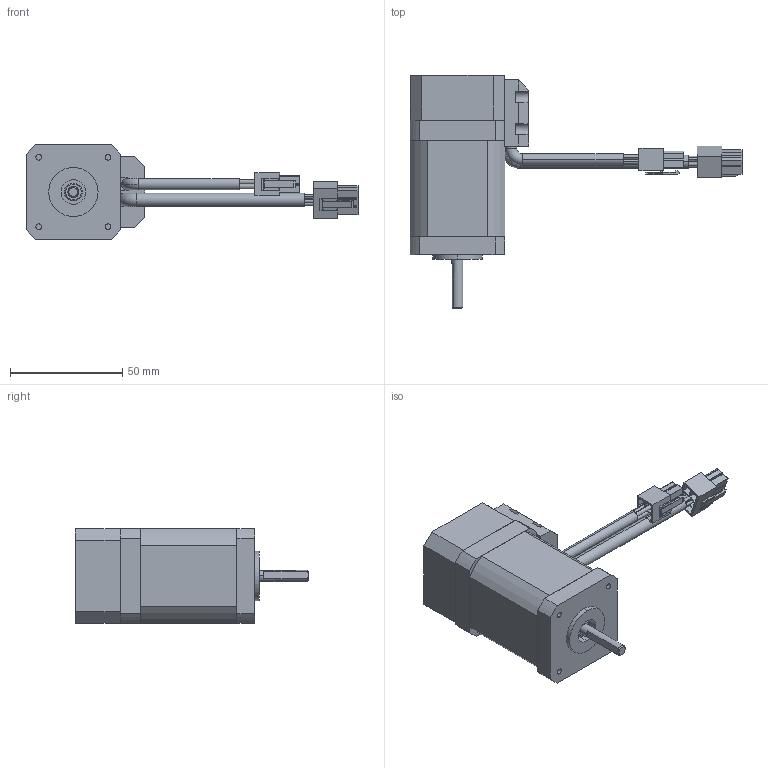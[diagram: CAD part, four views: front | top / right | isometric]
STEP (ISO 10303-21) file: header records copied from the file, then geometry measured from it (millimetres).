
FILE_DESCRIPTION (( 'STEP AP203' ), '1' );
FILE_NAME ('42HS280-020.STEP', '2020-07-08T08:12:59', ( 'Windows' ), ( 'Microsoft' ), 'SwSTEP 2.0', 'SolidWorks 2015', '' );
FILE_SCHEMA (( 'CONFIG_CONTROL_DESIGN' ));
Length unit declared in the file: millimetre
Products named in the file (11): M3蹟隊52; 23x14.5邧揤盄裔; 晤鎢ん綴欶; 42A-D19_1; HX42000-4R; 42B-D19_1; HX42000-6R; 42BYGH260-A24粣; M3X46蹟隊; 42HS280-020; 42隅赽43
Assembly tree (12 placements, depth 2):
  42HS280-020
    42A-D19_1
    42B-D19_1
    42BYGH260-A24粣
    42隅赽43
    M3蹟隊52  x2
    23x14.5邧揤盄裔
    晤鎢ん綴欶
    HX42000-4R
    HX42000-6R
    M3X46蹟隊  x2
Bounding box: 148.15 x 104 x 42.3 mm (x, y, z)
Volume: 146986.1 mm3; surface area: 47577.8 mm2
Topology: 16 solids, 16 shells, 613 faces, 1521 edges, 992 vertices
Faces by surface type: plane 425, cylinder 157, bspline 16, cone 10, torus 5
Entity records: 18095 total; most frequent: CARTESIAN_POINT 3071, DIRECTION 2850, ORIENTED_EDGE 2806, EDGE_CURVE 1403, VECTOR 1072, LINE 1072, VERTEX_POINT 920, AXIS2_PLACEMENT_3D 889
